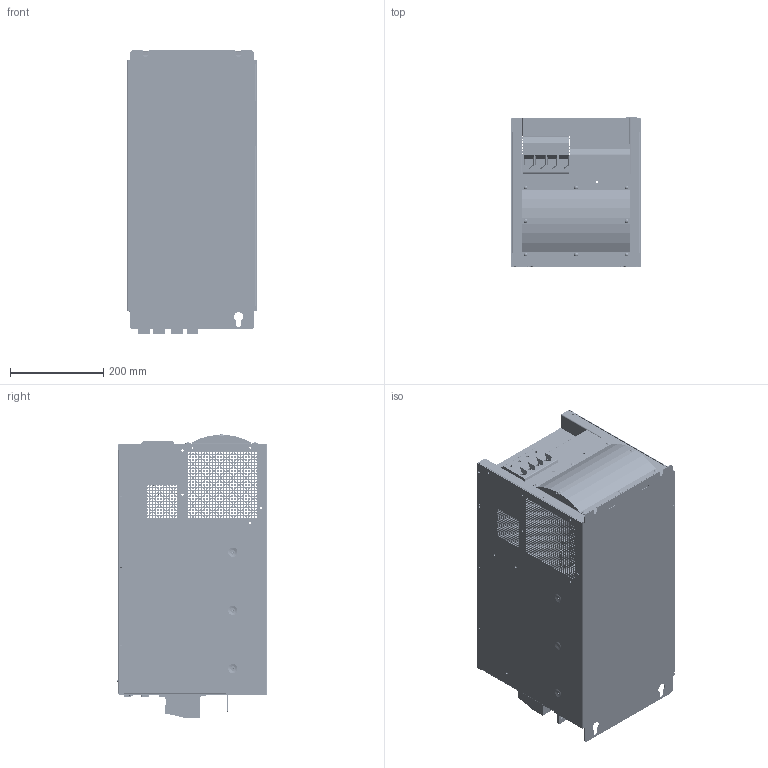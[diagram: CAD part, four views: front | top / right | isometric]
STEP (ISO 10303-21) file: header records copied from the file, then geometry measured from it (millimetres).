
FILE_DESCRIPTION(/* description */ (''),/* implementation_level */ '2;1');
FILE_NAME(/* name */ 'MSD SERVODRIVE DC_AC BG6',/* time_stamp */ '2010-01-19T14:32:35+01:00',/* author */ (''),/* organization */ (''),/* preprocessor_version */ 'ST-DEVELOPER v9',/* originating_system */ 'UGS - NX 4.0',/* authorisation */ '');
FILE_SCHEMA (('AUTOMOTIVE_DESIGN { 1 0 10303 214 1 1 1 1 }'));
Length unit declared in the file: millimetre
Products named in the file (1): sdum07F0hh9w
Bounding box: 280 x 324.3 x 610.8 mm (x, y, z)
Volume: 5074004.1 mm3; surface area: 4621215.7 mm2
Topology: 97 solids, 97 shells, 13793 faces, 37348 edges, 24502 vertices
Faces by surface type: plane 6731, bspline 4996, cylinder 1651, cone 346, torus 67, sphere 2
Entity records: 575688 total; most frequent: CARTESIAN_POINT 166956, ORIENTED_EDGE 74428, DIRECTION 48327, EDGE_CURVE 37214, VERTEX_POINT 24502, LINE 23265, VECTOR 23265, EDGE_LOOP 19198
